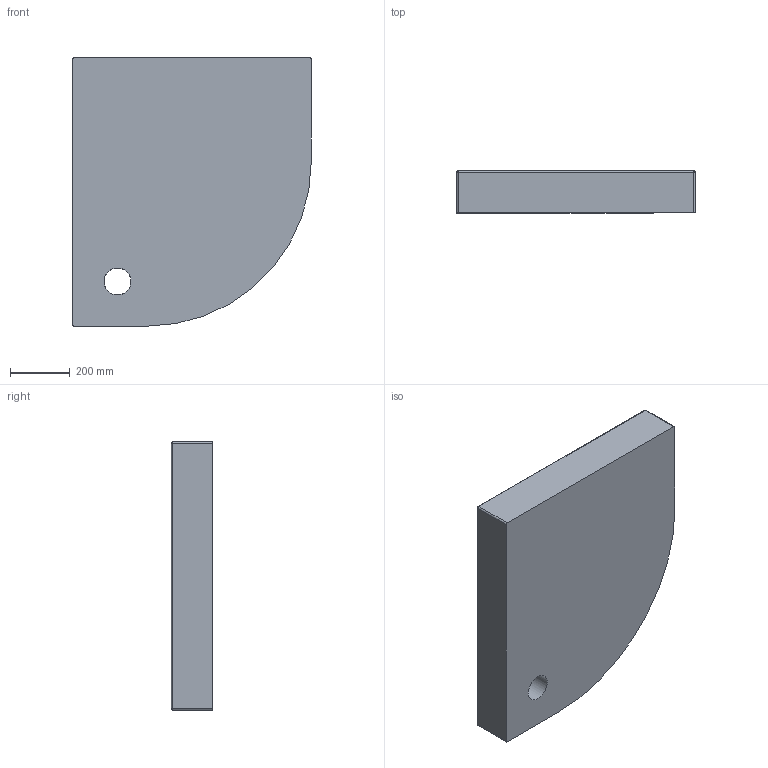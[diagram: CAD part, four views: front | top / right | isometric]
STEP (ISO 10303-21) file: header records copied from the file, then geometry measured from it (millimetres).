
FILE_DESCRIPTION(/* description */ (''),/* implementation_level */ '2;1');
FILE_NAME(/* name */ 'c:\worker\convert-fusion-r09\tmp\job-1\61\output\files\c7d50657-cbab-4fce-aa25-659679f5c1c8\183ee9f1-19e8-47ef-8d14-3d3b1d57cd78.stp',/* time_stamp */ '2020-01-03T09:01:34+00:00',/* author */ (''),/* organization */ (''),/* preprocessor_version */ 'ST-DEVELOPER v18',/* originating_system */ 'Autodesk Translation Framework v8.12.0.6',/* authorisation */ '');
FILE_SCHEMA (('AUTOMOTIVE_DESIGN { 1 0 10303 214 3 1 1 }'));
Length unit declared in the file: millimetre
Products named in the file (1): Riverside 80/90/L
Bounding box: 800 x 140 x 900 mm (x, y, z)
Volume: 78720035.8 mm3; surface area: 1819355.1 mm2
Topology: 1 solids, 1 shells, 47 faces, 103 edges, 59 vertices
Faces by surface type: cylinder 21, plane 11, bspline 7, torus 5, sphere 3
Full cylindrical faces by diameter (mm): 90 x1
Entity records: 2007 total; most frequent: CARTESIAN_POINT 936, DIRECTION 231, ORIENTED_EDGE 206, EDGE_CURVE 103, AXIS2_PLACEMENT_3D 93, VERTEX_POINT 59, EDGE_LOOP 50, FACE_OUTER_BOUND 47
